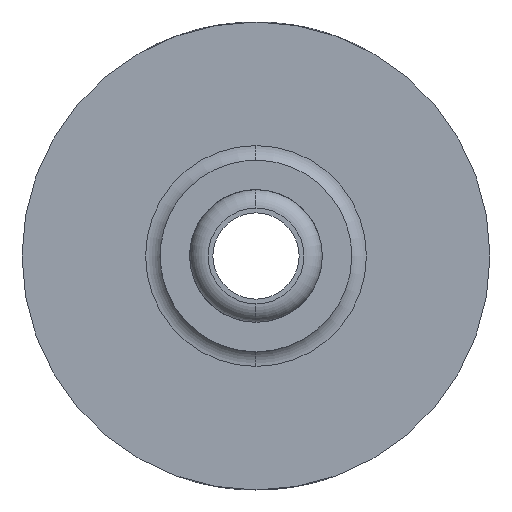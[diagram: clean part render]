
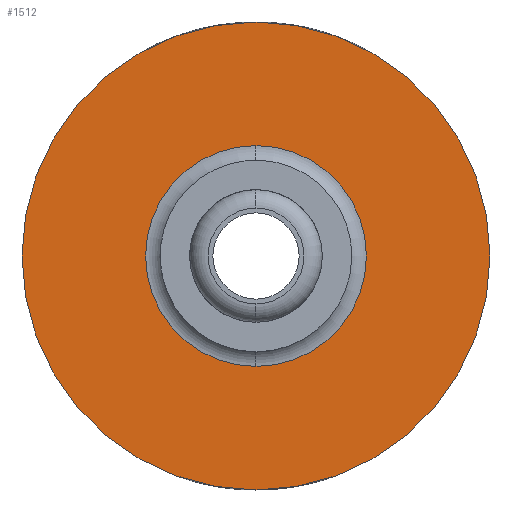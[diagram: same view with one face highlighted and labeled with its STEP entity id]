
A CAD part, left-side view. The second image highlights one B-rep face of the part: STEP entity #1512.
In plain terms, the highlighted planar face has unit normal (-1, 0, 0).
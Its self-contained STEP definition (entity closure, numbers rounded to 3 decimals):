
#324=FACE_BOUND('',#453,.T.);
#334=PLANE('',#1627);
#364=FACE_OUTER_BOUND('',#452,.T.);
#452=EDGE_LOOP('',(#1033,#1034));
#453=EDGE_LOOP('',(#1035,#1036));
#549=CIRCLE('',#1623,1.498);
#553=CIRCLE('',#1628,3.175);
#554=CIRCLE('',#1629,3.175);
#555=CIRCLE('',#1630,1.498);
#627=VERTEX_POINT('',#2142);
#628=VERTEX_POINT('',#2143);
#631=VERTEX_POINT('',#2151);
#632=VERTEX_POINT('',#2152);
#789=EDGE_CURVE('',#627,#628,#549,.T.);
#793=EDGE_CURVE('',#631,#632,#553,.T.);
#794=EDGE_CURVE('',#632,#631,#554,.T.);
#795=EDGE_CURVE('',#628,#627,#555,.T.);
#1033=ORIENTED_EDGE('',*,*,#793,.T.);
#1034=ORIENTED_EDGE('',*,*,#794,.T.);
#1035=ORIENTED_EDGE('',*,*,#795,.T.);
#1036=ORIENTED_EDGE('',*,*,#789,.T.);
#1512=ADVANCED_FACE('',(#364,#324),#334,.F.);
#1623=AXIS2_PLACEMENT_3D('',#2144,#1766,#1767);
#1627=AXIS2_PLACEMENT_3D('',#2150,#1774,#1775);
#1628=AXIS2_PLACEMENT_3D('',#2153,#1776,#1777);
#1629=AXIS2_PLACEMENT_3D('',#2154,#1778,#1779);
#1630=AXIS2_PLACEMENT_3D('',#2155,#1780,#1781);
#1766=DIRECTION('center_axis',(1.,0.,0.));
#1767=DIRECTION('ref_axis',(0.,0.,
1.));
#1774=DIRECTION('center_axis',(1.,0.,0.));
#1775=DIRECTION('ref_axis',(0.,0.,-1.));
#1776=DIRECTION('center_axis',(-1.,0.,0.));
#1777=DIRECTION('ref_axis',(0.,0.,1.));
#1778=DIRECTION('center_axis',(-1.,0.,0.));
#1779=DIRECTION('ref_axis',(0.,0.,
-1.));
#1780=DIRECTION('center_axis',(1.,0.,0.));
#1781=DIRECTION('ref_axis',(0.,0.,-1.));
#2142=CARTESIAN_POINT('',(-6.125,0.,1.498));
#2143=CARTESIAN_POINT('',(-6.125,0.,-1.498));
#2144=CARTESIAN_POINT('Origin',(-6.125,0.,0.));
#2150=CARTESIAN_POINT('Origin',(-6.125,-3.213,0.));
#2151=CARTESIAN_POINT('',(-6.125,0.,3.175));
#2152=CARTESIAN_POINT('',(-6.125,0.,-3.175));
#2153=CARTESIAN_POINT('Origin',(-6.125,0.,0.));
#2154=CARTESIAN_POINT('Origin',(-6.125,0.,0.));
#2155=CARTESIAN_POINT('Origin',(-6.125,0.,0.));
